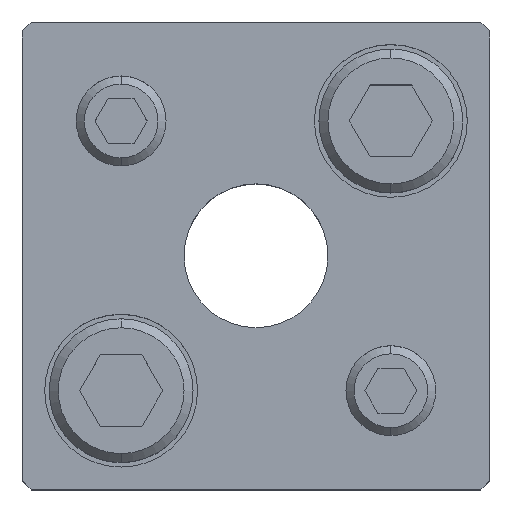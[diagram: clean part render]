
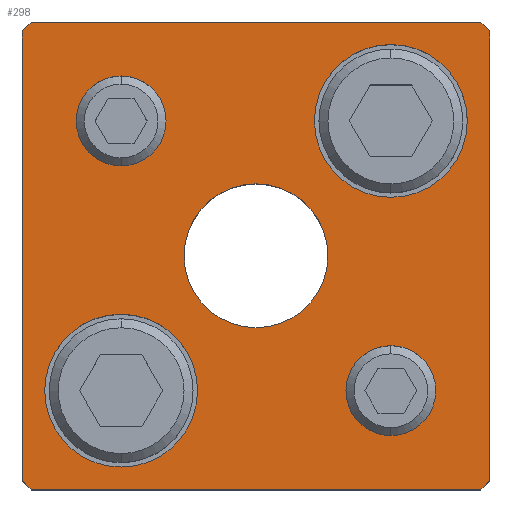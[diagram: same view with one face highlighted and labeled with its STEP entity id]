
A CAD part, top view. The second image highlights one B-rep face of the part: STEP entity #298.
In plain terms, the highlighted planar face has unit normal (0, 0, 1).
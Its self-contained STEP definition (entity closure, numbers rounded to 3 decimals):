
#155=PLANE('',#2455);
#222=FACE_BOUND('',#611,.T.);
#223=FACE_BOUND('',#612,.T.);
#224=FACE_BOUND('',#613,.T.);
#225=FACE_BOUND('',#614,.T.);
#226=FACE_BOUND('',#615,.T.);
#227=FACE_BOUND('',#616,.T.);
#298=ADVANCED_FACE('',(#222,#223,#224,#225,#226,#227),#155,.T.);
#611=EDGE_LOOP('',(#1291,#1292,#1293,#1294,#1295,#1296,#1297,#1298));
#612=EDGE_LOOP('',(#1299,#1300));
#613=EDGE_LOOP('',(#1301,#1302));
#614=EDGE_LOOP('',(#1303,#1304));
#615=EDGE_LOOP('',(#1305,#1306));
#616=EDGE_LOOP('',(#1307,#1308));
#762=LINE('',#3575,#948);
#763=LINE('',#3578,#949);
#764=LINE('',#3580,#950);
#765=LINE('',#3582,#951);
#766=LINE('',#3584,#952);
#767=LINE('',#3586,#953);
#768=LINE('',#3588,#954);
#769=LINE('',#3590,#955);
#948=VECTOR('',#2859,1.);
#949=VECTOR('',#2860,1.);
#950=VECTOR('',#2861,1.);
#951=VECTOR('',#2862,1.);
#952=VECTOR('',#2863,1.);
#953=VECTOR('',#2864,1.);
#954=VECTOR('',#2865,1.);
#955=VECTOR('',#2866,1.);
#1291=ORIENTED_EDGE('',*,*,#2022,.T.);
#1292=ORIENTED_EDGE('',*,*,#2023,.T.);
#1293=ORIENTED_EDGE('',*,*,#2024,.T.);
#1294=ORIENTED_EDGE('',*,*,#2025,.T.);
#1295=ORIENTED_EDGE('',*,*,#2026,.T.);
#1296=ORIENTED_EDGE('',*,*,#2027,.T.);
#1297=ORIENTED_EDGE('',*,*,#2028,.T.);
#1298=ORIENTED_EDGE('',*,*,#2029,.T.);
#1299=ORIENTED_EDGE('',*,*,#2030,.F.);
#1300=ORIENTED_EDGE('',*,*,#2031,.F.);
#1301=ORIENTED_EDGE('',*,*,#2032,.F.);
#1302=ORIENTED_EDGE('',*,*,#2033,.F.);
#1303=ORIENTED_EDGE('',*,*,#2008,.F.);
#1304=ORIENTED_EDGE('',*,*,#2004,.F.);
#1305=ORIENTED_EDGE('',*,*,#2002,.F.);
#1306=ORIENTED_EDGE('',*,*,#1998,.F.);
#1307=ORIENTED_EDGE('',*,*,#2034,.T.);
#1308=ORIENTED_EDGE('',*,*,#2035,.T.);
#1769=VERTEX_POINT('',#3526);
#1770=VERTEX_POINT('',#3527);
#1773=VERTEX_POINT('',#3539);
#1774=VERTEX_POINT('',#3540);
#1785=VERTEX_POINT('',#3576);
#1786=VERTEX_POINT('',#3577);
#1787=VERTEX_POINT('',#3579);
#1788=VERTEX_POINT('',#3581);
#1789=VERTEX_POINT('',#3583);
#1790=VERTEX_POINT('',#3585);
#1791=VERTEX_POINT('',#3587);
#1792=VERTEX_POINT('',#3589);
#1793=VERTEX_POINT('',#3592);
#1794=VERTEX_POINT('',#3593);
#1795=VERTEX_POINT('',#3596);
#1796=VERTEX_POINT('',#3597);
#1797=VERTEX_POINT('',#3600);
#1798=VERTEX_POINT('',#3601);
#1998=EDGE_CURVE('',#1769,#1770,#2267,.T.);
#2002=EDGE_CURVE('',#1770,#1769,#2269,.T.);
#2004=EDGE_CURVE('',#1773,#1774,#2271,.T.);
#2008=EDGE_CURVE('',#1774,#1773,#2273,.T.);
#2022=EDGE_CURVE('',#1785,#1786,#762,.T.);
#2023=EDGE_CURVE('',#1786,#1787,#763,.T.);
#2024=EDGE_CURVE('',#1787,#1788,#764,.T.);
#2025=EDGE_CURVE('',#1788,#1789,#765,.T.);
#2026=EDGE_CURVE('',#1789,#1790,#766,.T.);
#2027=EDGE_CURVE('',#1790,#1791,#767,.T.);
#2028=EDGE_CURVE('',#1791,#1792,#768,.T.);
#2029=EDGE_CURVE('',#1792,#1785,#769,.T.);
#2030=EDGE_CURVE('',#1793,#1794,#2283,.T.);
#2031=EDGE_CURVE('',#1794,#1793,#2284,.T.);
#2032=EDGE_CURVE('',#1795,#1796,#2285,.T.);
#2033=EDGE_CURVE('',#1796,#1795,#2286,.T.);
#2034=EDGE_CURVE('',#1797,#1798,#2287,.T.);
#2035=EDGE_CURVE('',#1798,#1797,#2288,.T.);
#2267=CIRCLE('',#2423,5.);
#2269=CIRCLE('',#2426,5.);
#2271=CIRCLE('',#2430,5.);
#2273=CIRCLE('',#2433,5.);
#2283=CIRCLE('',#2449,8.5);
#2284=CIRCLE('',#2450,8.5);
#2285=CIRCLE('',#2451,8.5);
#2286=CIRCLE('',#2452,8.5);
#2287=CIRCLE('',#2453,8.);
#2288=CIRCLE('',#2454,8.);
#2423=AXIS2_PLACEMENT_3D('',#3525,#2799,#2800);
#2426=AXIS2_PLACEMENT_3D('',#3534,#2807,#2808);
#2430=AXIS2_PLACEMENT_3D('',#3538,#2815,#2816);
#2433=AXIS2_PLACEMENT_3D('',#3547,#2823,#2824);
#2449=AXIS2_PLACEMENT_3D('',#3591,#2867,#2868);
#2450=AXIS2_PLACEMENT_3D('',#3594,#2869,#2870);
#2451=AXIS2_PLACEMENT_3D('',#3595,#2871,#2872);
#2452=AXIS2_PLACEMENT_3D('',#3598,#2873,#2874);
#2453=AXIS2_PLACEMENT_3D('',#3599,#2875,#2876);
#2454=AXIS2_PLACEMENT_3D('',#3602,#2877,#2878);
#2455=AXIS2_PLACEMENT_3D('',#3603,#2879,#2880);
#2799=DIRECTION('',(0.,0.,1.));
#2800=DIRECTION('',(-1.,0.,0.));
#2807=DIRECTION('',(0.,0.,1.));
#2808=DIRECTION('',(1.,0.,0.));
#2815=DIRECTION('',(0.,0.,1.));
#2816=DIRECTION('',(-1.,0.,0.));
#2823=DIRECTION('',(0.,0.,1.));
#2824=DIRECTION('',(1.,0.,0.));
#2859=DIRECTION('',(0.707,0.707,0.));
#2860=DIRECTION('',(0.,1.,0.));
#2861=DIRECTION('',(-0.707,0.707,0.));
#2862=DIRECTION('',(-1.,0.,0.));
#2863=DIRECTION('',(-0.707,-0.707,0.));
#2864=DIRECTION('',(0.,-1.,0.));
#2865=DIRECTION('',(0.707,-0.707,0.));
#2866=DIRECTION('',(1.,0.,0.));
#2867=DIRECTION('',(0.,0.,1.));
#2868=DIRECTION('',(1.,0.,0.));
#2869=DIRECTION('',(0.,0.,1.));
#2870=DIRECTION('',(-1.,0.,0.));
#2871=DIRECTION('',(0.,0.,1.));
#2872=DIRECTION('',(1.,0.,0.));
#2873=DIRECTION('',(0.,0.,1.));
#2874=DIRECTION('',(-1.,0.,0.));
#2875=DIRECTION('',(0.,0.,-1.));
#2876=DIRECTION('',(-1.,0.,0.));
#2877=DIRECTION('',(0.,0.,-1.));
#2878=DIRECTION('',(1.,0.,0.));
#2879=DIRECTION('',(0.,0.,1.));
#2880=DIRECTION('',(-1.,0.,0.));
#3525=CARTESIAN_POINT('',(15.,-15.,30.));
#3526=CARTESIAN_POINT('',(15.,-20.,30.));
#3527=CARTESIAN_POINT('',(15.,-10.,30.));
#3534=CARTESIAN_POINT('',(15.,-15.,30.));
#3538=CARTESIAN_POINT('',(-15.,15.,30.));
#3539=CARTESIAN_POINT('',(-15.,10.,30.));
#3540=CARTESIAN_POINT('',(-15.,20.,30.));
#3547=CARTESIAN_POINT('',(-15.,15.,30.));
#3575=CARTESIAN_POINT('',(25.,-26.,30.));
#3576=CARTESIAN_POINT('',(25.,-26.,30.));
#3577=CARTESIAN_POINT('',(26.,-25.,30.));
#3578=CARTESIAN_POINT('',(26.,25.,30.));
#3579=CARTESIAN_POINT('',(26.,25.,30.));
#3580=CARTESIAN_POINT('',(26.,25.,30.));
#3581=CARTESIAN_POINT('',(25.,26.,30.));
#3582=CARTESIAN_POINT('',(-25.,26.,30.));
#3583=CARTESIAN_POINT('',(-25.,26.,30.));
#3584=CARTESIAN_POINT('',(-25.,26.,30.));
#3585=CARTESIAN_POINT('',(-26.,25.,30.));
#3586=CARTESIAN_POINT('',(-26.,25.,30.));
#3587=CARTESIAN_POINT('',(-26.,-25.,30.));
#3588=CARTESIAN_POINT('',(-26.,-25.,30.));
#3589=CARTESIAN_POINT('',(-25.,-26.,30.));
#3590=CARTESIAN_POINT('',(-25.,-26.,30.));
#3591=CARTESIAN_POINT('',(15.,15.,30.));
#3592=CARTESIAN_POINT('',(15.,23.5,30.));
#3593=CARTESIAN_POINT('',(15.,6.5,30.));
#3594=CARTESIAN_POINT('',(15.,15.,30.));
#3595=CARTESIAN_POINT('',(-15.,-15.,30.));
#3596=CARTESIAN_POINT('',(-15.,-6.5,30.));
#3597=CARTESIAN_POINT('',(-15.,-23.5,30.));
#3598=CARTESIAN_POINT('',(-15.,-15.,30.));
#3599=CARTESIAN_POINT('',(0.,0.,30.));
#3600=CARTESIAN_POINT('',(0.,8.,30.));
#3601=CARTESIAN_POINT('',(0.,-8.,30.));
#3602=CARTESIAN_POINT('',(0.,0.,30.));
#3603=CARTESIAN_POINT('',(25.,-26.,30.));
